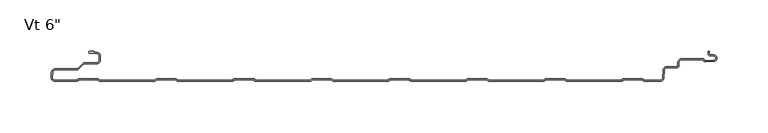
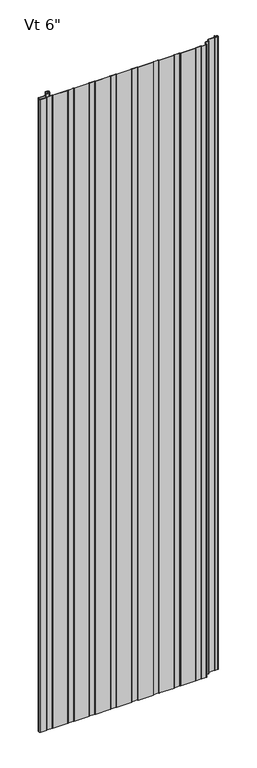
"""IFC4 building model written with IfcOpenShell, lengths in millimetres: plate geometry."""

from ifc_helpers import new_model, si_unit, point, frame_2d, origin, origin_with_axes, place, context, project, spatial, polyline, circle_curve, trimmed, segment, composite_curve, outline, extrude, source, transform, mapped, element, save


def plate_710b1f2b(model_context):
    return source(origin(), model_context, "Body", "SweptSolid", [
        extrude(outline(composite_curve([segment(polyline([(-315.4415934, -152.3997378), (-337.2521176, -152.3997378)]), True, "CONTINUOUS"), segment(trimmed(circle_curve(frame_2d((-337.2521176, -148.8294985)), 3.5702393), [point((-337.2521176, -152.3997378))], [point((-340.808762, -148.5182281))], False, "CARTESIAN"), True, "CONTINUOUS"), segment(polyline([(-340.808762, -148.5182281), (-340.3690675, -143.4941815)]), True, "CONTINUOUS"), segment(trimmed(circle_curve(frame_2d((-336.7198392, -144.1049826)), 3.6999926), [point((-340.3690675, -143.4941815))], [point((-336.7198392, -140.40499))], False, "CARTESIAN"), True, "CONTINUOUS"), segment(polyline([(-336.7198392, -140.40499), (-315.5773997, -140.40499)]), True, "CONTINUOUS"), segment(trimmed(circle_curve(frame_2d((-315.5773997, -139.1049926)), 1.2999974), [point((-315.5773997, -140.40499))], [point((-314.6581627, -140.0242296))], True, "CARTESIAN"), True, "CONTINUOUS"), segment(polyline([(-314.6581627, -140.0242296), (-309.8297453, -135.1958121)]), True, "CONTINUOUS"), segment(trimmed(circle_curve(frame_2d((-307.9205608, -137.1049966)), 2.6999946), [point((-309.8297453, -135.1958121))], [point((-307.9205608, -134.405002))], False, "CARTESIAN"), True, "CONTINUOUS"), segment(polyline([(-307.9205608, -134.405002), (-296.1096717, -134.405002)]), True, "CONTINUOUS"), segment(trimmed(circle_curve(frame_2d((-296.1096717, -132.0550067)), 2.3499953), [point((-296.1096717, -134.405002))], [point((-293.7596764, -132.0550067))], True, "CARTESIAN"), True, "CONTINUOUS"), segment(polyline([(-293.7596764, -132.0550067), (-293.7596764, -127.6550155)]), True, "CONTINUOUS"), segment(trimmed(circle_curve(frame_2d((-296.1096717, -127.6550155)), 2.3499953), [point((-293.7596764, -127.6550155))], [point((-296.1096717, -125.3050202))], True, "CARTESIAN"), True, "CONTINUOUS"), segment(polyline([(-296.1096717, -125.3050202), (-302.6289779, -125.3050202)]), True, "CONTINUOUS"), segment(trimmed(circle_curve(frame_2d((-302.5686908, -124.106538)), 1.1999976), [point((-302.6289779, -125.3050202))], [point((-303.7683001, -124.0760161))], False, "CARTESIAN"), True, "CONTINUOUS"), segment(trimmed(circle_curve(frame_2d((-302.5686908, -124.106538)), 1.1999976), [point((-303.7683001, -124.0760161))], [point((-302.5671761, -122.9065413))], False, "CARTESIAN"), True, "CONTINUOUS"), segment(polyline([(-302.5671761, -122.9065413), (-298.8087827, -122.9065413), (-298.8087827, -124.3050202), (-296.1096717, -124.3050202)]), True, "CONTINUOUS"), segment(trimmed(circle_curve(frame_2d((-296.1096717, -127.6550155)), 3.3499953), [point((-296.1096717, -124.3050202))], [point((-292.7596764, -127.6550155))], False, "CARTESIAN"), True, "CONTINUOUS"), segment(polyline([(-292.7596764, -127.6550155), (-292.7596764, -132.0550067)]), True, "CONTINUOUS"), segment(trimmed(circle_curve(frame_2d((-296.1096717, -132.0550067)), 3.3499953), [point((-292.7596764, -132.0550067))], [point((-296.1096717, -135.405002))], False, "CARTESIAN"), True, "CONTINUOUS"), segment(polyline([(-296.1096717, -135.405002), (-307.9205608, -135.405002)]), True, "CONTINUOUS"), segment(trimmed(circle_curve(frame_2d((-307.9205608, -137.1049966)), 1.6999946), [point((-307.9205608, -135.405002))], [point((-309.1226385, -135.9029189))], True, "CARTESIAN"), True, "CONTINUOUS"), segment(polyline([(-309.1226385, -135.9029189), (-314.6247096, -141.40499), (-336.7198392, -141.40499)]), True, "CONTINUOUS"), segment(trimmed(circle_curve(frame_2d((-336.7198392, -144.1049826)), 2.6999926), [point((-336.7198392, -141.40499))], [point((-339.3765709, -143.623592))], True, "CARTESIAN"), True, "CONTINUOUS"), segment(polyline([(-339.3765709, -143.623592), (-339.8125699, -148.6054129)]), True, "CONTINUOUS"), segment(trimmed(circle_curve(frame_2d((-337.2521176, -148.8294985)), 2.5702393), [point((-339.8125699, -148.6054129))], [point((-337.2521176, -151.3997378))], True, "CARTESIAN"), True, "CONTINUOUS"), segment(polyline([(-337.2521176, -151.3997378), (-315.2790962, -151.3997378), (-314.0791277, -150.1997693), (-294.3597151, -150.1997693), (-293.1594844, -151.4), (-239.0793527, -151.4), (-237.879122, -150.1997693), (-218.1597095, -150.1997693), (-216.9594787, -151.4), (-162.879347, -151.4), (-161.6791163, -150.1997693), (-141.9597038, -150.1997693), (-140.7594731, -151.4), (-86.6793413, -151.4), (-85.4791106, -150.1997693), (-65.7596981, -150.1997693), (-64.5594674, -151.4), (-10.4793356, -151.4), (-9.2791049, -150.1997693), (10.4403076, -150.1997693), (11.6405383, -151.4), (65.7206701, -151.4), (66.9209008, -150.1997693), (86.6403133, -150.1997693), (87.840544, -151.4), (141.9206758, -151.4), (143.1209065, -150.1997693), (162.840319, -150.1997693), (164.0405497, -151.4), (218.1206815, -151.4), (219.3209122, -150.1997693), (239.0403247, -150.1997693), (240.2396538, -151.3990984), (256.3384359, -151.3990984)]), True, "CONTINUOUS"), segment(trimmed(circle_curve(frame_2d((256.3384359, -149.4491043)), 1.9499941), [point((256.3384359, -151.3990984))], [point((258.2810097, -149.6190575))], True, "CARTESIAN"), True, "CONTINUOUS"), segment(polyline([(258.2810097, -149.6190575), (259.0215397, -141.154761)]), True, "CONTINUOUS"), segment(trimmed(circle_curve(frame_2d((262.0400056, -141.4188426)), 3.0299959), [point((259.0215397, -141.154761))], [point((262.1657441, -138.3914567))], False, "CARTESIAN"), True, "CONTINUOUS"), segment(polyline([(262.1657441, -138.3914567), (272.2595941, -138.3914567)]), True, "CONTINUOUS"), segment(trimmed(circle_curve(frame_2d((272.2595941, -137.4423033)), 0.9491534), [point((272.2595941, -138.3914567))], [point((273.2087475, -137.4423033))], True, "CARTESIAN"), True, "CONTINUOUS"), segment(polyline([(273.2087475, -137.4423033), (273.2087475, -134.3009036)]), True, "CONTINUOUS"), segment(trimmed(circle_curve(frame_2d((277.2087415, -134.3009036)), 3.999994), [point((273.2087475, -134.3009036))], [point((277.2087415, -130.3009096))], False, "CARTESIAN"), True, "CONTINUOUS"), segment(polyline([(277.2087415, -130.3009096), (298.3895515, -130.3009096), (299.5334028, -132.2821181), (308.506811, -131.9268578)]), True, "CONTINUOUS"), segment(trimmed(circle_curve(frame_2d((308.4236622, -129.8266291)), 2.1018739), [point((308.506811, -131.9268578))], [point((308.5037148, -127.7262802))], True, "CARTESIAN"), True, "CONTINUOUS"), segment(polyline([(308.5037148, -127.7262802), (304.4977997, -127.4818653)]), True, "CONTINUOUS"), segment(trimmed(circle_curve(frame_2d((304.6099653, -125.6434917)), 1.8417922), [point((304.4977997, -127.4818653))], [point((302.7686884, -125.6870527))], False, "CARTESIAN"), True, "CONTINUOUS"), segment(polyline([(302.7686884, -125.6870527), (302.7686884, -122.9025061), (303.7686884, -122.9025061), (303.7686884, -125.6729389)]), True, "CONTINUOUS"), segment(trimmed(circle_curve(frame_2d((304.6099653, -125.6434917)), 0.8417922), [point((303.7686884, -125.6729389))], [point((304.5587, -126.4837214))], True, "CARTESIAN"), True, "CONTINUOUS"), segment(polyline([(304.5587, -126.4837214), (308.5543204, -126.7275082)]), True, "CONTINUOUS"), segment(trimmed(circle_curve(frame_2d((308.4236622, -129.8266291)), 3.1018739), [point((308.5543204, -126.7275082))], [point((308.5463704, -132.926075))], False, "CARTESIAN"), True, "CONTINUOUS"), segment(polyline([(308.5463704, -132.926075), (299.8344401, -133.2709833)]), True, "CONTINUOUS"), segment(trimmed(circle_curve(frame_2d((299.787224, -131.8217552)), 1.4499971), [point((299.8344401, -133.2709833))], [point((298.5314897, -132.5467537))], False, "CARTESIAN"), True, "CONTINUOUS"), segment(polyline([(298.5314897, -132.5467537), (297.8122013, -131.3009096), (277.2087415, -131.3009096)]), True, "CONTINUOUS"), segment(trimmed(circle_curve(frame_2d((277.2087415, -134.3009036)), 2.999994), [point((277.2087415, -131.3009096))], [point((274.2087475, -134.3009036))], True, "CARTESIAN"), True, "CONTINUOUS"), segment(polyline([(274.2087475, -134.3009036), (274.2087475, -137.4423033)]), True, "CONTINUOUS"), segment(trimmed(circle_curve(frame_2d((272.2595941, -137.4423033)), 1.9491534), [point((274.2087475, -137.4423033))], [point((272.2595941, -139.3914567))], False, "CARTESIAN"), True, "CONTINUOUS"), segment(polyline([(272.2595941, -139.3914567), (262.1429135, -139.3914567)]), True, "CONTINUOUS"), segment(trimmed(circle_curve(frame_2d((262.0400056, -141.4188426)), 2.0299959), [point((262.1429135, -139.3914567))], [point((260.0177344, -141.2419168))], True, "CARTESIAN"), True, "CONTINUOUS"), segment(polyline([(260.0177344, -141.2419168), (259.2772044, -149.7062132)]), True, "CONTINUOUS"), segment(trimmed(circle_curve(frame_2d((256.3384359, -149.4491043)), 2.9499941), [point((259.2772044, -149.7062132))], [point((256.3384359, -152.3990984))], False, "CARTESIAN"), True, "CONTINUOUS"), segment(polyline([(256.3384359, -152.3990984), (240.4528361, -152.3990984)]), True, "CONTINUOUS"), segment(trimmed(circle_curve(frame_2d((240.4020209, -151.0000237)), 1.3999972), [point((240.4528361, -152.3990984))], [point((239.3579701, -151.9327349))], False, "CARTESIAN"), True, "CONTINUOUS"), segment(polyline([(239.3579701, -151.9327349), (238.6250045, -151.1997693), (219.7343353, -151.1997693), (219.0013906, -151.932714)]), True, "CONTINUOUS"), segment(trimmed(circle_curve(frame_2d((217.9573398, -151.0000028)), 1.3999972), [point((219.0013906, -151.932714))], [point((217.9573398, -152.4))], False, "CARTESIAN"), True, "CONTINUOUS"), segment(polyline([(217.9573398, -152.4), (164.2098266, -152.4)]), True, "CONTINUOUS"), segment(trimmed(circle_curve(frame_2d((164.2021733, -151.0000237)), 1.3999972), [point((164.2098266, -152.4))], [point((163.1581225, -151.9327349))], False, "CARTESIAN"), True, "CONTINUOUS"), segment(polyline([(163.1581225, -151.9327349), (162.4251569, -151.1997693), (143.5344877, -151.1997693), (142.801543, -151.932714)]), True, "CONTINUOUS"), segment(trimmed(circle_curve(frame_2d((141.7574922, -151.0000028)), 1.3999972), [point((142.801543, -151.932714))], [point((141.7574922, -152.4))], False, "CARTESIAN"), True, "CONTINUOUS"), segment(polyline([(141.7574922, -152.4), (88.009979, -152.4)]), True, "CONTINUOUS"), segment(trimmed(circle_curve(frame_2d((88.0023257, -151.0000237)), 1.3999972), [point((88.009979, -152.4))], [point((86.9582749, -151.9327349))], False, "CARTESIAN"), True, "CONTINUOUS"), segment(polyline([(86.9582749, -151.9327349), (86.2253093, -151.1997693), (67.3346401, -151.1997693), (66.6016954, -151.932714)]), True, "CONTINUOUS"), segment(trimmed(circle_curve(frame_2d((65.5576446, -151.0000028)), 1.3999972), [point((66.6016954, -151.932714))], [point((65.5576446, -152.4))], False, "CARTESIAN"), True, "CONTINUOUS"), segment(polyline([(65.5576446, -152.4), (11.8101314, -152.4)]), True, "CONTINUOUS"), segment(trimmed(circle_curve(frame_2d((11.8024781, -151.0000237)), 1.3999972), [point((11.8101314, -152.4))], [point((10.7584273, -151.9327349))], False, "CARTESIAN"), True, "CONTINUOUS"), segment(polyline([(10.7584273, -151.9327349), (10.0254617, -151.1997693), (-8.8652075, -151.1997693), (-9.5981522, -151.932714)]), True, "CONTINUOUS"), segment(trimmed(circle_curve(frame_2d((-10.642203, -151.0000028)), 1.3999972), [point((-9.5981522, -151.932714))], [point((-10.642203, -152.4))], False, "CARTESIAN"), True, "CONTINUOUS"), segment(polyline([(-10.642203, -152.4), (-64.3897162, -152.4)]), True, "CONTINUOUS"), segment(trimmed(circle_curve(frame_2d((-64.3973695, -151.0000237)), 1.3999972), [point((-64.3897162, -152.4))], [point((-65.4414203, -151.9327349))], False, "CARTESIAN"), True, "CONTINUOUS"), segment(polyline([(-65.4414203, -151.9327349), (-66.1743859, -151.1997693), (-85.0650551, -151.1997693), (-85.7979998, -151.932714)]), True, "CONTINUOUS"), segment(trimmed(circle_curve(frame_2d((-86.8420506, -151.0000028)), 1.3999972), [point((-85.7979998, -151.932714))], [point((-86.8420506, -152.4))], False, "CARTESIAN"), True, "CONTINUOUS"), segment(polyline([(-86.8420506, -152.4), (-140.5895638, -152.4)]), True, "CONTINUOUS"), segment(trimmed(circle_curve(frame_2d((-140.5972171, -151.0000237)), 1.3999972), [point((-140.5895638, -152.4))], [point((-141.6412679, -151.9327349))], False, "CARTESIAN"), True, "CONTINUOUS"), segment(polyline([(-141.6412679, -151.9327349), (-142.3742335, -151.1997693), (-161.2649027, -151.1997693), (-161.9978474, -151.932714)]), True, "CONTINUOUS"), segment(trimmed(circle_curve(frame_2d((-163.0418982, -151.0000028)), 1.3999972), [point((-161.9978474, -151.932714))], [point((-163.0418982, -152.4))], False, "CARTESIAN"), True, "CONTINUOUS"), segment(polyline([(-163.0418982, -152.4), (-216.7894114, -152.4)]), True, "CONTINUOUS"), segment(trimmed(circle_curve(frame_2d((-216.7970647, -151.0000237)), 1.3999972), [point((-216.7894114, -152.4))], [point((-217.8411155, -151.9327349))], False, "CARTESIAN"), True, "CONTINUOUS"), segment(polyline([(-217.8411155, -151.9327349), (-218.5740811, -151.1997693), (-237.4647503, -151.1997693), (-238.197695, -151.932714)]), True, "CONTINUOUS"), segment(trimmed(circle_curve(frame_2d((-239.2417458, -151.0000028)), 1.3999972), [point((-238.197695, -151.932714))], [point((-239.2417458, -152.4))], False, "CARTESIAN"), True, "CONTINUOUS"), segment(polyline([(-239.2417458, -152.4), (-292.989259, -152.4)]), True, "CONTINUOUS"), segment(trimmed(circle_curve(frame_2d((-292.9969123, -151.0000237)), 1.3999972), [point((-292.989259, -152.4))], [point((-294.0409631, -151.9327349))], False, "CARTESIAN"), True, "CONTINUOUS"), segment(polyline([(-294.0409631, -151.9327349), (-294.7739287, -151.1997693), (-313.6649141, -151.1997693), (-314.3976403, -151.9324955)]), True, "CONTINUOUS"), segment(trimmed(circle_curve(frame_2d((-315.4415934, -150.9998717)), 1.3998661), [point((-314.3976403, -151.9324955))], [point((-315.4415934, -152.3997378))], False, "CARTESIAN"), True, "CONTINUOUS")], self_intersect=False)), origin_with_axes(), (0.0, 0.0, 1.0), 2400.0),
    ])


if __name__ == "__main__":
    model = new_model("IFC4")
    model_context = context("Model", 3, world=origin())
    ifc_project = project(units=[si_unit("LENGTHUNIT", "METRE", prefix="MILLI")], contexts=[model_context])
    site = spatial("IfcSite", under=ifc_project)
    building = spatial("IfcBuilding", under=site)
    placement = place(None, origin())
    plate_shape = plate_710b1f2b(model_context)
    element("IfcPlate", 1, ObjectType="KIP-24-Karrier-KP-R19-CP-Vt-SL3-8in_SL : Vt 6\"", at=placement, inside=building, context=model_context, shape_type="MappedRepresentation", body=[
        mapped(plate_shape, transform((0.0, 0.0, 0.0), x_axis=(1.0, 0.0, 0.0), y_axis=(0.0, 1.0, 0.0), z_axis=(0.0, 0.0, 1.0))),
    ])
    save(model, "model.ifc")
